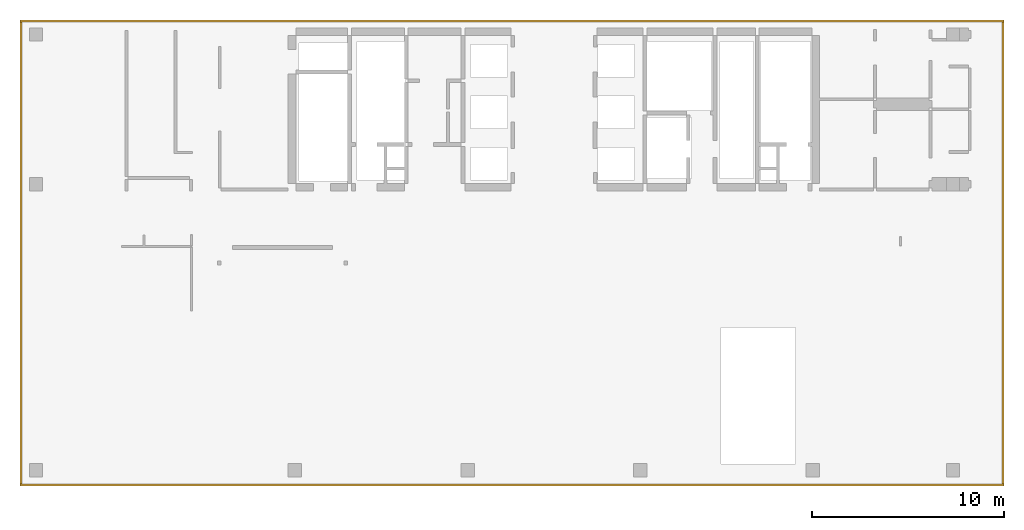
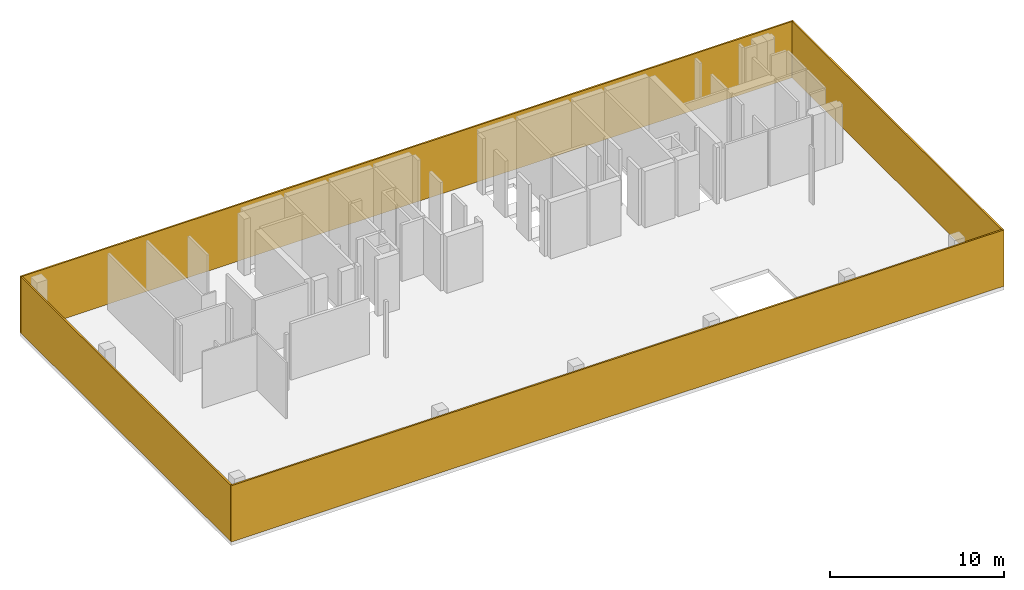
# One storey, part 4 of 4: 4 curtain walls.
"""IFC4 building model written with IfcOpenShell, lengths in millimetres."""

from ifc_helpers import new_model, si_unit, frame, origin, place, context, project, spatial, triangles, element, save


model = new_model("IFC4")

# Units and contexts
model_context = context("Model", 3, precision=0.001, world=origin())
ifc_project = project(units=[si_unit("LENGTHUNIT", "METRE", prefix="MILLI"), si_unit("AREAUNIT", "SQUARE_METRE"), si_unit("VOLUMEUNIT", "CUBIC_METRE")], contexts=[model_context])

# Site, building, storey
site_placement = place(None, origin())
site = spatial("IfcSite", under=ifc_project, at=site_placement, Name="Site", CompositionType="ELEMENT")
building_placement = place(site_placement, origin())
building = spatial("IfcBuilding", under=site, at=building_placement, Name="INNOCEAN", CompositionType="ELEMENT")
storey_placement = place(building_placement, frame((0.0, 0.0, 63800.0)))
storey = spatial("IfcBuildingStorey", under=building, at=storey_placement, Name="F15", CompositionType="ELEMENT", Elevation=63800.0)

# Curtain walls
curtain_wall_1_placement = place(storey_placement, origin())
element("IfcCurtainWall", 1, at=curtain_wall_1_placement, inside=storey, Name="F15_Facade_F15_001", context=model_context, shape_type="Tessellation", body=[
    triangles([(50420.3187250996, 25825.974025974, 0.0), (-846.215139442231, 25825.974025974, 0.0), (-846.215139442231, 25825.974025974, 3950.0), (50420.3187250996, 25825.974025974, 3950.0), (50420.3187250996, 25720.1298701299, 0.0), (50420.3187250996, 25720.1298701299, 3950.0), (-846.215139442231, 25720.1298701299, 0.0), (-846.215139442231, 25720.1298701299, 3950.0)], [[1, 2, 3], [1, 3, 4], [5, 1, 4], [5, 4, 6], [7, 5, 6], [7, 6, 8], [2, 7, 8], [2, 8, 3], [2, 1, 5], [2, 5, 7], [4, 3, 6], [6, 3, 8]], closed=True),
])
curtain_wall_2_placement = place(storey_placement, origin())
element("IfcCurtainWall", 2, at=curtain_wall_2_placement, inside=storey, Name="F15_Facade_F15_002", context=model_context, shape_type="Tessellation", body=[
    triangles([(50420.3187250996, 1658.22510822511, 0.0), (-846.215139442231, 1658.22510822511, 0.0), (-846.215139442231, 1658.22510822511, 3950.0), (50420.3187250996, 1658.22510822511, 3950.0), (50420.3187250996, 1552.38095238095, 0.0), (50420.3187250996, 1552.38095238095, 3950.0), (-846.215139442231, 1552.38095238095, 0.0), (-846.215139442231, 1552.38095238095, 3950.0)], [[1, 2, 3], [1, 3, 4], [5, 1, 4], [5, 4, 6], [7, 5, 6], [7, 6, 8], [2, 7, 8], [2, 8, 3], [2, 1, 5], [2, 5, 7], [4, 3, 6], [6, 3, 8]], closed=True),
])
curtain_wall_3_placement = place(storey_placement, origin())
element("IfcCurtainWall", 3, at=curtain_wall_3_placement, inside=storey, Name="F15_Facade_F15_003", context=model_context, shape_type="Tessellation", body=[
    triangles([(-740.438247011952, 25720.1298701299, 0.0), (-846.215139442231, 25720.1298701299, 0.0), (-846.215139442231, 25720.1298701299, 3950.0), (-740.438247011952, 25720.1298701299, 3950.0), (-740.438247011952, 1658.22510822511, 0.0), (-740.438247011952, 1658.22510822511, 3950.0), (-846.215139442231, 1658.22510822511, 0.0), (-846.215139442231, 1658.22510822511, 3950.0)], [[1, 2, 3], [1, 3, 4], [5, 1, 4], [5, 4, 6], [7, 5, 6], [7, 6, 8], [2, 7, 8], [2, 8, 3], [2, 1, 5], [2, 5, 7], [4, 3, 6], [6, 3, 8]], closed=True),
])
curtain_wall_4_placement = place(storey_placement, origin())
element("IfcCurtainWall", 4, at=curtain_wall_4_placement, inside=storey, Name="F15_Facade_F15_004", context=model_context, shape_type="Tessellation", body=[
    triangles([(50420.3187250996, 25720.1298701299, 0.0), (50314.5418326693, 25720.1298701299, 0.0), (50314.5418326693, 25720.1298701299, 3950.0), (50420.3187250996, 25720.1298701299, 3950.0), (50420.3187250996, 1658.22510822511, 0.0), (50420.3187250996, 1658.22510822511, 3950.0), (50314.5418326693, 1658.22510822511, 0.0), (50314.5418326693, 1658.22510822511, 3950.0)], [[1, 2, 3], [1, 3, 4], [5, 1, 4], [5, 4, 6], [7, 5, 6], [7, 6, 8], [2, 7, 8], [2, 8, 3], [2, 1, 5], [2, 5, 7], [4, 3, 6], [6, 3, 8]], closed=True),
])

save(model, "model.ifc")
